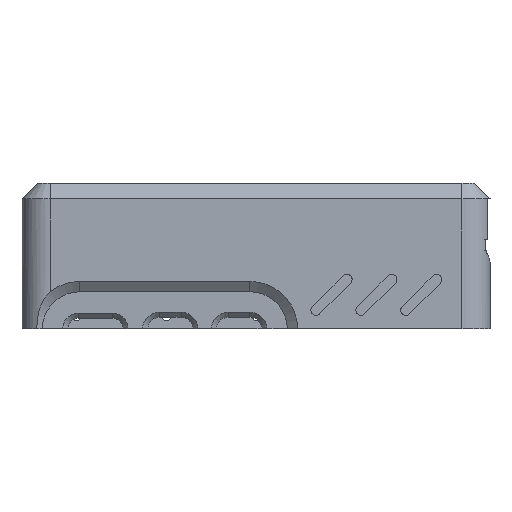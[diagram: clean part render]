
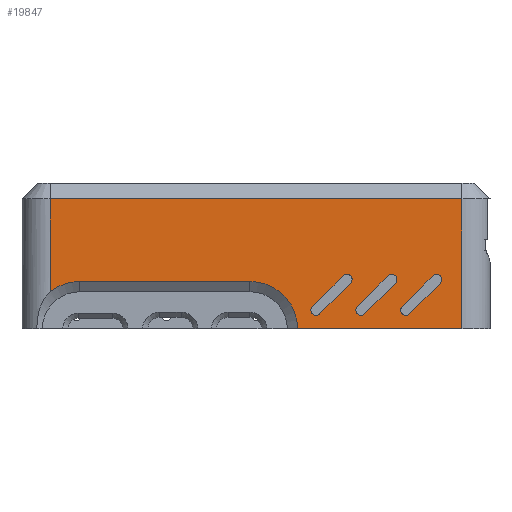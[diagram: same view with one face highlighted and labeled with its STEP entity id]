
A CAD part, front view. The second image highlights one B-rep face of the part: STEP entity #19847.
In plain terms, the highlighted planar face has unit normal (0, -1, 0).
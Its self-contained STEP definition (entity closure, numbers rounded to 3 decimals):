
#307=FACE_BOUND('',#2524,.T.);
#308=FACE_BOUND('',#2525,.T.);
#309=FACE_BOUND('',#2526,.T.);
#326=CIRCLE('',#19935,1.);
#328=CIRCLE('',#19939,1.);
#330=CIRCLE('',#19943,1.);
#332=CIRCLE('',#19947,1.);
#334=CIRCLE('',#19951,1.);
#336=CIRCLE('',#19955,1.);
#395=CIRCLE('',#20865,9.3);
#412=CIRCLE('',#20889,9.3);
#1317=FACE_OUTER_BOUND('',#2523,.T.);
#2523=EDGE_LOOP('',(#17738,#17739,#17740,#17741,#17742,#17743,#17744));
#2524=EDGE_LOOP('',(#17745,#17746,#17747,#17748));
#2525=EDGE_LOOP('',(#17749,#17750,#17751,#17752));
#2526=EDGE_LOOP('',(#17753,#17754,#17755,#17756));
#2599=LINE('',#25714,#5263);
#2603=LINE('',#25726,#5267);
#2607=LINE('',#25738,#5271);
#2611=LINE('',#25750,#5275);
#2615=LINE('',#25762,#5279);
#2619=LINE('',#25774,#5283);
#2747=LINE('',#26167,#5411);
#5099=LINE('',#30892,#7763);
#5126=LINE('',#30983,#7790);
#5150=LINE('',#31081,#7814);
#5151=LINE('',#31082,#7815);
#5263=VECTOR('',#20974,10.);
#5267=VECTOR('',#20986,10.);
#5271=VECTOR('',#20998,10.);
#5275=VECTOR('',#21010,10.);
#5279=VECTOR('',#21022,10.);
#5283=VECTOR('',#21034,10.);
#5411=VECTOR('',#21358,10.);
#7763=VECTOR('',#25296,10.);
#7790=VECTOR('',#25361,10.);
#7814=VECTOR('',#25443,10.);
#7815=VECTOR('',#25444,10.);
#7927=VERTEX_POINT('',#25711);
#7928=VERTEX_POINT('',#25713);
#7930=VERTEX_POINT('',#25719);
#7932=VERTEX_POINT('',#25725);
#7935=VERTEX_POINT('',#25735);
#7936=VERTEX_POINT('',#25737);
#7938=VERTEX_POINT('',#25743);
#7940=VERTEX_POINT('',#25749);
#7943=VERTEX_POINT('',#25759);
#7944=VERTEX_POINT('',#25761);
#7946=VERTEX_POINT('',#25767);
#7948=VERTEX_POINT('',#25773);
#8092=VERTEX_POINT('',#26164);
#8093=VERTEX_POINT('',#26166);
#9661=VERTEX_POINT('',#30883);
#9686=VERTEX_POINT('',#30972);
#9688=VERTEX_POINT('',#30987);
#9722=VERTEX_POINT('',#31070);
#9724=VERTEX_POINT('',#31075);
#9772=EDGE_CURVE('',#7928,#7927,#2599,.T.);
#9775=EDGE_CURVE('',#7930,#7928,#326,.T.);
#9778=EDGE_CURVE('',#7932,#7930,#2603,.T.);
#9781=EDGE_CURVE('',#7927,#7932,#328,.T.);
#9784=EDGE_CURVE('',#7936,#7935,#2607,.T.);
#9787=EDGE_CURVE('',#7938,#7936,#330,.T.);
#9790=EDGE_CURVE('',#7940,#7938,#2611,.T.);
#9793=EDGE_CURVE('',#7935,#7940,#332,.T.);
#9796=EDGE_CURVE('',#7944,#7943,#2615,.T.);
#9799=EDGE_CURVE('',#7946,#7944,#334,.T.);
#9802=EDGE_CURVE('',#7948,#7946,#2619,.T.);
#9805=EDGE_CURVE('',#7943,#7948,#336,.T.);
#9988=EDGE_CURVE('',#8092,#8093,#2747,.T.);
#12348=EDGE_CURVE('',#9661,#8092,#5099,.T.);
#12385=EDGE_CURVE('',#9686,#9661,#5126,.T.);
#12388=EDGE_CURVE('',#9688,#9686,#395,.T.);
#12428=EDGE_CURVE('',#9722,#9724,#412,.T.);
#12431=EDGE_CURVE('',#9724,#9688,#5150,.T.);
#12432=EDGE_CURVE('',#8093,#9722,#5151,.T.);
#17738=ORIENTED_EDGE('',*,*,#12348,.F.);
#17739=ORIENTED_EDGE('',*,*,#12385,.F.);
#17740=ORIENTED_EDGE('',*,*,#12388,.F.);
#17741=ORIENTED_EDGE('',*,*,#12431,.F.);
#17742=ORIENTED_EDGE('',*,*,#12428,.F.);
#17743=ORIENTED_EDGE('',*,*,#12432,.F.);
#17744=ORIENTED_EDGE('',*,*,#9988,.F.);
#17745=ORIENTED_EDGE('',*,*,#9778,.T.);
#17746=ORIENTED_EDGE('',*,*,#9775,.T.);
#17747=ORIENTED_EDGE('',*,*,#9772,.T.);
#17748=ORIENTED_EDGE('',*,*,#9781,.T.);
#17749=ORIENTED_EDGE('',*,*,#9790,.T.);
#17750=ORIENTED_EDGE('',*,*,#9787,.T.);
#17751=ORIENTED_EDGE('',*,*,#9784,.T.);
#17752=ORIENTED_EDGE('',*,*,#9793,.T.);
#17753=ORIENTED_EDGE('',*,*,#9802,.T.);
#17754=ORIENTED_EDGE('',*,*,#9799,.T.);
#17755=ORIENTED_EDGE('',*,*,#9796,.T.);
#17756=ORIENTED_EDGE('',*,*,#9805,.T.);
#18931=PLANE('',#20891);
#19847=ADVANCED_FACE('',(#1317,#307,#308,#309),#18931,.T.);
#19935=AXIS2_PLACEMENT_3D('',#25720,#20980,#20981);
#19939=AXIS2_PLACEMENT_3D('',#25730,#20992,#20993);
#19943=AXIS2_PLACEMENT_3D('',#25744,#21004,#21005);
#19947=AXIS2_PLACEMENT_3D('',#25754,#21016,#21017);
#19951=AXIS2_PLACEMENT_3D('',#25768,#21028,#21029);
#19955=AXIS2_PLACEMENT_3D('',#25778,#21040,#21041);
#20865=AXIS2_PLACEMENT_3D('',#30989,#25367,#25368);
#20889=AXIS2_PLACEMENT_3D('',#31076,#25436,#25437);
#20891=AXIS2_PLACEMENT_3D('',#31080,#25441,#25442);
#20974=DIRECTION('',(-0.707,0.,-0.707));
#20980=DIRECTION('center_axis',(0.,1.,0.));
#20981=DIRECTION('ref_axis',(1.,0.,0.));
#20986=DIRECTION('',(0.707,0.,0.707));
#20992=DIRECTION('center_axis',(0.,1.,0.));
#20993=DIRECTION('ref_axis',(0.707,0.,-0.707));
#20998=DIRECTION('',(-0.707,0.,-0.707));
#21004=DIRECTION('center_axis',(0.,1.,0.));
#21005=DIRECTION('ref_axis',(1.,0.,0.));
#21010=DIRECTION('',(0.707,0.,0.707));
#21016=DIRECTION('center_axis',(0.,1.,0.));
#21017=DIRECTION('ref_axis',(0.707,0.,-0.707));
#21022=DIRECTION('',(-0.707,0.,-0.707));
#21028=DIRECTION('center_axis',(0.,1.,0.));
#21029=DIRECTION('ref_axis',(1.,0.,0.));
#21034=DIRECTION('',(0.707,0.,0.707));
#21040=DIRECTION('center_axis',(0.,1.,0.));
#21041=DIRECTION('ref_axis',(0.707,0.,-0.707));
#21358=DIRECTION('',(0.,0.,-1.));
#25296=DIRECTION('',(1.,0.,0.));
#25361=DIRECTION('',(0.,0.,1.));
#25367=DIRECTION('center_axis',(0.,-1.,0.));
#25368=DIRECTION('ref_axis',(0.,0.,
1.));
#25436=DIRECTION('center_axis',(0.,-1.,0.));
#25437=DIRECTION('ref_axis',(0.,0.,
1.));
#25441=DIRECTION('center_axis',(0.,-1.,0.));
#25442=DIRECTION('ref_axis',(1.,0.,0.));
#25443=DIRECTION('',(-1.,0.,0.));
#25444=DIRECTION('',(-1.,0.,0.));
#25711=CARTESIAN_POINT('',(12.388,-101.1,6.093));
#25713=CARTESIAN_POINT('',(18.388,-101.1,12.093));
#25714=CARTESIAN_POINT('',(-1.407,-101.1,-7.702));
#25719=CARTESIAN_POINT('',(16.974,-101.1,13.507));
#25720=CARTESIAN_POINT('Origin',(17.681,-101.1,12.8));
#25725=CARTESIAN_POINT('',(10.974,-101.1,7.507));
#25726=CARTESIAN_POINT('',(-5.821,-101.1,-9.288));
#25730=CARTESIAN_POINT('Origin',(11.681,-101.1,6.8));
#25735=CARTESIAN_POINT('',(21.138,-101.1,6.093));
#25737=CARTESIAN_POINT('',(27.138,-101.1,12.093));
#25738=CARTESIAN_POINT('',(5.156,-101.1,-9.89));
#25743=CARTESIAN_POINT('',(25.724,-101.1,13.507));
#25744=CARTESIAN_POINT('Origin',(26.431,-101.1,12.8));
#25749=CARTESIAN_POINT('',(19.724,-101.1,7.507));
#25750=CARTESIAN_POINT('',(0.741,-101.1,-11.476));
#25754=CARTESIAN_POINT('Origin',(20.431,-101.1,6.8));
#25759=CARTESIAN_POINT('',(29.888,-101.1,6.093));
#25761=CARTESIAN_POINT('',(35.888,-101.1,12.093));
#25762=CARTESIAN_POINT('',(11.718,-101.1,-12.077));
#25767=CARTESIAN_POINT('',(34.474,-101.1,13.507));
#25768=CARTESIAN_POINT('Origin',(35.181,-101.1,12.8));
#25773=CARTESIAN_POINT('',(28.474,-101.1,7.507));
#25774=CARTESIAN_POINT('',(7.304,-101.1,-13.663));
#25778=CARTESIAN_POINT('Origin',(29.181,-101.1,6.8));
#26164=CARTESIAN_POINT('',(40.1,-101.1,28.5));
#26166=CARTESIAN_POINT('',(40.1,-101.1,3.22));
#26167=CARTESIAN_POINT('',(40.1,-101.1,-3.1));
#30883=CARTESIAN_POINT('',(-40.1,-101.1,28.5));
#30892=CARTESIAN_POINT('',(-22.811,-101.1,28.5));
#30972=CARTESIAN_POINT('',(-40.1,-101.1,10.409));
#30983=CARTESIAN_POINT('',(-40.1,-101.1,-3.1));
#30987=CARTESIAN_POINT('',(-34.35,-101.1,12.4));
#30989=CARTESIAN_POINT('Origin',(-34.35,-101.1,3.1));
#31070=CARTESIAN_POINT('',(8.094,-101.1,3.22));
#31075=CARTESIAN_POINT('',(-1.205,-101.1,12.4));
#31076=CARTESIAN_POINT('Origin',(-1.205,-101.1,3.1));
#31080=CARTESIAN_POINT('Origin',(-45.6,-101.1,-3.1));
#31081=CARTESIAN_POINT('',(-39.975,-101.1,12.4));
#31082=CARTESIAN_POINT('',(-22.8,-101.1,3.22));
